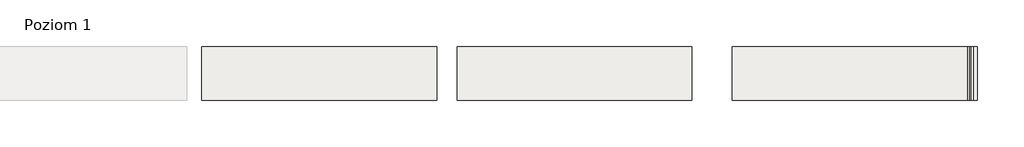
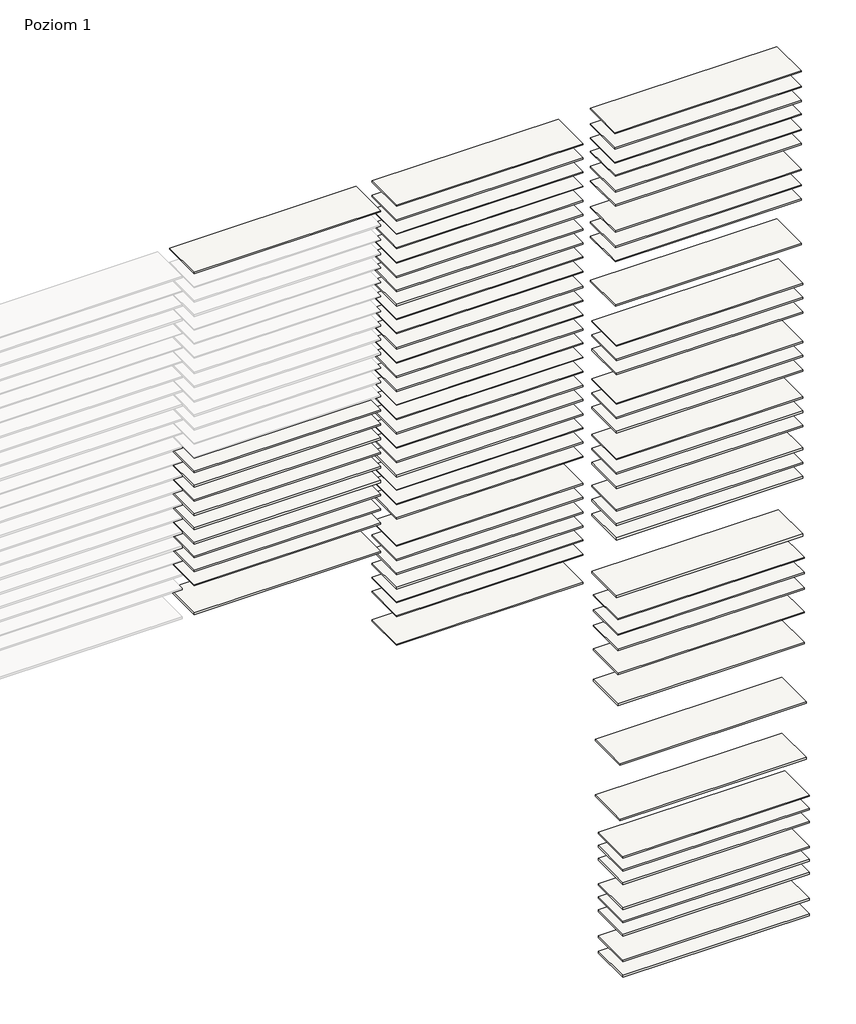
# One storey, part 2 of 2: 79 slabs.
"""IFC4 building model written with IfcOpenShell, lengths in millimetres."""

from ifc_helpers import new_model, si_unit, frame, origin, place, context, project, spatial, polyline, outline, extrude, element, save

model = new_model("IFC4")

# Units and contexts
model_context = context("Model", 3, world=origin())
ifc_project = project(units=[si_unit("LENGTHUNIT", "METRE", prefix="MILLI")], contexts=[model_context])

# Site, building, storey
site = spatial("IfcSite", under=ifc_project)
building = spatial("IfcBuilding", under=site)
storey = spatial("IfcBuildingStorey", under=building, Name="Poziom 1", Elevation=0.0)

# Slabs
placement = place(None, origin())
element("IfcSlab", 1, ObjectType="MultiFloor FIBROCEM-40/T-15", at=placement, inside=storey, context=model_context, shape_type="SweptSolid", body=[
    extrude(outline(polyline([(163678.0557257, 3636.696621), (163678.0557257, -63.303379), (147478.0557257, -63.303379), (147478.0557257, 3636.696621), (163678.0557257, 3636.696621)])), frame((0.0, 0.0, -51.5919376), z_axis=(0.0, 0.0, 1.0), x_axis=(1.0, 0.0, 0.0)), (0.0, 0.0, 1.0), 85.0),
])
element("IfcSlab", 2, ObjectType="MultiFloor FIBROCEM-60/T-15", at=placement, inside=storey, context=model_context, shape_type="SweptSolid", body=[
    extrude(outline(polyline([(163678.0557257, 3636.696621), (163678.0557257, -63.303379), (147478.0557257, -63.303379), (147478.0557257, 3636.696621), (163678.0557257, 3636.696621)])), frame((0.0, 0.0, -1471.5919376), z_axis=(0.0, 0.0, 1.0), x_axis=(1.0, 0.0, 0.0)), (0.0, 0.0, 1.0), 105.0),
])
element("IfcSlab", 3, ObjectType="MultiFloor FIBROCEM-75/T-15", at=placement, inside=storey, context=model_context, shape_type="SweptSolid", body=[
    extrude(outline(polyline([(163678.0557257, 3636.696621), (163678.0557257, -63.303379), (147478.0557257, -63.303379), (147478.0557257, 3636.696621), (163678.0557257, 3636.696621)])), frame((0.0, 0.0, -2786.5919376), z_axis=(0.0, 0.0, 1.0), x_axis=(1.0, 0.0, 0.0)), (0.0, 0.0, 1.0), 120.0),
])
element("IfcSlab", 4, ObjectType="MultiFloor FIBROCEM-40/T-25", at=placement, inside=storey, context=model_context, shape_type="SweptSolid", body=[
    extrude(outline(polyline([(163700.8511669, 3636.696621), (163700.8511669, -63.303379), (147500.8511669, -63.303379), (147500.8511669, 3636.696621), (163700.8511669, 3636.696621)])), frame((0.0, 0.0, -3995.0), z_axis=(0.0, 0.0, 1.0), x_axis=(1.0, 0.0, 0.0)), (0.0, 0.0, 1.0), 95.0),
])
element("IfcSlab", 5, ObjectType="MultiFloor FIBROCEM-60/T-25", at=placement, inside=storey, context=model_context, shape_type="SweptSolid", body=[
    extrude(outline(polyline([(163700.8511669, 3636.696621), (163700.8511669, -63.303379), (147500.8511669, -63.303379), (147500.8511669, 3636.696621), (163700.8511669, 3636.696621)])), frame((0.0, 0.0, -5430.0), z_axis=(0.0, 0.0, 1.0), x_axis=(1.0, 0.0, 0.0)), (0.0, 0.0, 1.0), 115.0),
])
element("IfcSlab", 6, ObjectType="MultiFloor FIBROCEM-75/T-25", at=placement, inside=storey, context=model_context, shape_type="SweptSolid", body=[
    extrude(outline(polyline([(163700.8511669, 3636.696621), (163700.8511669, -63.303379), (147500.8511669, -63.303379), (147500.8511669, 3636.696621), (163700.8511669, 3636.696621)])), frame((0.0, 0.0, -6745.0), z_axis=(0.0, 0.0, 1.0), x_axis=(1.0, 0.0, 0.0)), (0.0, 0.0, 1.0), 130.0),
])
element("IfcSlab", 7, ObjectType="MultiFloor FIBROCEM-40/T-30", at=placement, inside=storey, context=model_context, shape_type="SweptSolid", body=[
    extrude(outline(polyline([(163700.8511669, 3636.696621), (163700.8511669, -63.303379), (147500.8511669, -63.303379), (147500.8511669, 3636.696621), (163700.8511669, 3636.696621)])), frame((0.0, 0.0, -9100.0), z_axis=(0.0, 0.0, 1.0), x_axis=(1.0, 0.0, 0.0)), (0.0, 0.0, 1.0), 100.0),
])
element("IfcSlab", 8, ObjectType="MultiFloor FIBROCEM-60/T-30", at=placement, inside=storey, context=model_context, shape_type="SweptSolid", body=[
    extrude(outline(polyline([(163700.8511669, 3636.696621), (163700.8511669, -63.303379), (147500.8511669, -63.303379), (147500.8511669, 3636.696621), (163700.8511669, 3636.696621)])), frame((0.0, 0.0, -10535.0), z_axis=(0.0, 0.0, 1.0), x_axis=(1.0, 0.0, 0.0)), (0.0, 0.0, 1.0), 120.0),
])
element("IfcSlab", 9, ObjectType="MultiFloor FIBROCEM-75/T-30", at=placement, inside=storey, context=model_context, shape_type="SweptSolid", body=[
    extrude(outline(polyline([(163700.8511669, 3636.696621), (163700.8511669, -63.303379), (147500.8511669, -63.303379), (147500.8511669, 3636.696621), (163700.8511669, 3636.696621)])), frame((0.0, 0.0, -11850.0), z_axis=(0.0, 0.0, 1.0), x_axis=(1.0, 0.0, 0.0)), (0.0, 0.0, 1.0), 135.0),
])
element("IfcSlab", 10, ObjectType="MultiFloor FIBROCEM-60/T-50", at=placement, inside=storey, context=model_context, shape_type="SweptSolid", body=[
    extrude(outline(polyline([(163700.8511669, 3636.696621), (163700.8511669, -63.303379), (147500.8511669, -63.303379), (147500.8511669, 3636.696621), (163700.8511669, 3636.696621)])), frame((0.0, 0.0, -15920.0), z_axis=(0.0, 0.0, 1.0), x_axis=(1.0, 0.0, 0.0)), (0.0, 0.0, 1.0), 140.0),
])
element("IfcSlab", 11, ObjectType="MultiFloor FIBROCEM-40/S-40", at=placement, inside=storey, context=model_context, shape_type="SweptSolid", body=[
    extrude(outline(polyline([(163826.1825274, 3636.696621), (163826.1825274, -63.303379), (147626.1825274, -63.303379), (147626.1825274, 3636.696621), (163826.1825274, 3636.696621)])), frame((0.0, 0.0, -19634.617093), z_axis=(0.0, 0.0, 1.0), x_axis=(1.0, 0.0, 0.0)), (0.0, 0.0, 1.0), 110.0),
])
element("IfcSlab", 12, ObjectType="MultiFloor FIBROCEM-60/S-40", at=placement, inside=storey, context=model_context, shape_type="SweptSolid", body=[
    extrude(outline(polyline([(163826.1825274, 3636.696621), (163826.1825274, -63.303379), (147626.1825274, -63.303379), (147626.1825274, 3636.696621), (163826.1825274, 3636.696621)])), frame((0.0, 0.0, -20954.617093), z_axis=(0.0, 0.0, 1.0), x_axis=(1.0, 0.0, 0.0)), (0.0, 0.0, 1.0), 130.0),
])
element("IfcSlab", 13, ObjectType="MultiFloor FIBROCEM-75/S-40", at=placement, inside=storey, context=model_context, shape_type="SweptSolid", body=[
    extrude(outline(polyline([(163826.1825274, 3636.696621), (163826.1825274, -63.303379), (147626.1825274, -63.303379), (147626.1825274, 3636.696621), (163826.1825274, 3636.696621)])), frame((0.0, 0.0, -22269.617093), z_axis=(0.0, 0.0, 1.0), x_axis=(1.0, 0.0, 0.0)), (0.0, 0.0, 1.0), 145.0),
])
element("IfcSlab", 14, ObjectType="MultiFloor FIBROCEM-40/S-50", at=placement, inside=storey, context=model_context, shape_type="SweptSolid", body=[
    extrude(outline(polyline([(163826.1825274, 3636.696621), (163826.1825274, -63.303379), (147626.1825274, -63.303379), (147626.1825274, 3636.696621), (163826.1825274, 3636.696621)])), frame((0.0, 0.0, -24969.617093), z_axis=(0.0, 0.0, 1.0), x_axis=(1.0, 0.0, 0.0)), (0.0, 0.0, 1.0), 120.0),
])
element("IfcSlab", 15, ObjectType="MultiFloor FIBROCEM-60/S-50", at=placement, inside=storey, context=model_context, shape_type="SweptSolid", body=[
    extrude(outline(polyline([(163826.1825274, 3636.696621), (163826.1825274, -63.303379), (147626.1825274, -63.303379), (147626.1825274, 3636.696621), (163826.1825274, 3636.696621)])), frame((0.0, 0.0, -26289.617093), z_axis=(0.0, 0.0, 1.0), x_axis=(1.0, 0.0, 0.0)), (0.0, 0.0, 1.0), 140.0),
])
element("IfcSlab", 16, ObjectType="MultiFloor FIBROCEM-75/S-50", at=placement, inside=storey, context=model_context, shape_type="SweptSolid", body=[
    extrude(outline(polyline([(163826.1825274, 3636.696621), (163826.1825274, -63.303379), (147626.1825274, -63.303379), (147626.1825274, 3636.696621), (163826.1825274, 3636.696621)])), frame((0.0, 0.0, -27604.617093), z_axis=(0.0, 0.0, 1.0), x_axis=(1.0, 0.0, 0.0)), (0.0, 0.0, 1.0), 155.0),
])
element("IfcSlab", 17, ObjectType="MultiFloor FIBROCEM-40/S-60", at=placement, inside=storey, context=model_context, shape_type="SweptSolid", body=[
    extrude(outline(polyline([(163826.1825274, 3636.696621), (163826.1825274, -63.303379), (147626.1825274, -63.303379), (147626.1825274, 3636.696621), (163826.1825274, 3636.696621)])), frame((0.0, 0.0, -30079.617093), z_axis=(0.0, 0.0, 1.0), x_axis=(1.0, 0.0, 0.0)), (0.0, 0.0, 1.0), 130.0),
])
element("IfcSlab", 18, ObjectType="MultiFloor FIBROCEM-60/S-60", at=placement, inside=storey, context=model_context, shape_type="SweptSolid", body=[
    extrude(outline(polyline([(163826.1825274, 3636.696621), (163826.1825274, -63.303379), (147626.1825274, -63.303379), (147626.1825274, 3636.696621), (163826.1825274, 3636.696621)])), frame((0.0, 0.0, -31399.617093), z_axis=(0.0, 0.0, 1.0), x_axis=(1.0, 0.0, 0.0)), (0.0, 0.0, 1.0), 150.0),
])
element("IfcSlab", 19, ObjectType="MultiFloor FIBROCEM-75/S-60", at=placement, inside=storey, context=model_context, shape_type="SweptSolid", body=[
    extrude(outline(polyline([(163826.1825274, 3636.696621), (163826.1825274, -63.303379), (147626.1825274, -63.303379), (147626.1825274, 3636.696621), (163826.1825274, 3636.696621)])), frame((0.0, 0.0, -32714.617093), z_axis=(0.0, 0.0, 1.0), x_axis=(1.0, 0.0, 0.0)), (0.0, 0.0, 1.0), 165.0),
])
element("IfcSlab", 20, ObjectType="MultiFloor FIBROCEM-40/S-80", at=placement, inside=storey, context=model_context, shape_type="SweptSolid", body=[
    extrude(outline(polyline([(163826.1825274, 3636.696621), (163826.1825274, -63.303379), (147626.1825274, -63.303379), (147626.1825274, 3636.696621), (163826.1825274, 3636.696621)])), frame((0.0, 0.0, -34799.617093), z_axis=(0.0, 0.0, 1.0), x_axis=(1.0, 0.0, 0.0)), (0.0, 0.0, 1.0), 150.0),
])
element("IfcSlab", 21, ObjectType="MultiFloor FIBROCEM-60/S-80", at=placement, inside=storey, context=model_context, shape_type="SweptSolid", body=[
    extrude(outline(polyline([(163826.1825274, 3636.696621), (163826.1825274, -63.303379), (147626.1825274, -63.303379), (147626.1825274, 3636.696621), (163826.1825274, 3636.696621)])), frame((0.0, 0.0, -36119.617093), z_axis=(0.0, 0.0, 1.0), x_axis=(1.0, 0.0, 0.0)), (0.0, 0.0, 1.0), 170.0),
])
element("IfcSlab", 22, ObjectType="MultiFloor FIBROCEM-75/S-80", at=placement, inside=storey, context=model_context, shape_type="SweptSolid", body=[
    extrude(outline(polyline([(163826.1825274, 3636.696621), (163826.1825274, -63.303379), (147626.1825274, -63.303379), (147626.1825274, 3636.696621), (163826.1825274, 3636.696621)])), frame((0.0, 0.0, -37434.617093), z_axis=(0.0, 0.0, 1.0), x_axis=(1.0, 0.0, 0.0)), (0.0, 0.0, 1.0), 185.0),
])
element("IfcSlab", 23, ObjectType="MultiFloor FIBROCEM-75/S-100", at=placement, inside=storey, context=model_context, shape_type="SweptSolid", body=[
    extrude(outline(polyline([(163826.1825274, 3636.696621), (163826.1825274, -63.303379), (147626.1825274, -63.303379), (147626.1825274, 3636.696621), (163826.1825274, 3636.696621)])), frame((0.0, 0.0, -42754.617093), z_axis=(0.0, 0.0, 1.0), x_axis=(1.0, 0.0, 0.0)), (0.0, 0.0, 1.0), 205.0),
])
element("IfcSlab", 24, ObjectType="MultiFloor 60 dB FIBROCEM-40/T-25", at=placement, inside=storey, context=model_context, shape_type="SweptSolid", body=[
    extrude(outline(polyline([(163923.3879139, 3636.696621), (163923.3879139, -63.303379), (147723.3879139, -63.303379), (147723.3879139, 3636.696621), (163923.3879139, 3636.696621)])), frame((0.0, 0.0, -44815.4159134), z_axis=(0.0, 0.0, 1.0), x_axis=(1.0, 0.0, 0.0)), (0.0, 0.0, 1.0), 95.0),
])
element("IfcSlab", 25, ObjectType="MultiFloor 60 dB FIBROCEM-60/T-25", at=placement, inside=storey, context=model_context, shape_type="SweptSolid", body=[
    extrude(outline(polyline([(163923.3879139, 3636.696621), (163923.3879139, -63.303379), (147723.3879139, -63.303379), (147723.3879139, 3636.696621), (163923.3879139, 3636.696621)])), frame((0.0, 0.0, -46235.4159134), z_axis=(0.0, 0.0, 1.0), x_axis=(1.0, 0.0, 0.0)), (0.0, 0.0, 1.0), 115.0),
])
element("IfcSlab", 26, ObjectType="MultiFloor 60 dB FIBROCEM-75/T-25", at=placement, inside=storey, context=model_context, shape_type="SweptSolid", body=[
    extrude(outline(polyline([(163923.3879139, 3636.696621), (163923.3879139, -63.303379), (147723.3879139, -63.303379), (147723.3879139, 3636.696621), (163923.3879139, 3636.696621)])), frame((0.0, 0.0, -47650.4159134), z_axis=(0.0, 0.0, 1.0), x_axis=(1.0, 0.0, 0.0)), (0.0, 0.0, 1.0), 130.0),
])
element("IfcSlab", 27, ObjectType="MultiFloor 60 dB FIBROCEM-40/T-50", at=placement, inside=storey, context=model_context, shape_type="SweptSolid", body=[
    extrude(outline(polyline([(163923.3879139, 3636.696621), (163923.3879139, -63.303379), (147723.3879139, -63.303379), (147723.3879139, 3636.696621), (163923.3879139, 3636.696621)])), frame((0.0, 0.0, -49840.4159134), z_axis=(0.0, 0.0, 1.0), x_axis=(1.0, 0.0, 0.0)), (0.0, 0.0, 1.0), 120.0),
])
element("IfcSlab", 28, ObjectType="MultiFloor 60 dB FIBROCEM-75/T-50", at=placement, inside=storey, context=model_context, shape_type="SweptSolid", body=[
    extrude(outline(polyline([(163923.3879139, 3636.696621), (163923.3879139, -63.303379), (147723.3879139, -63.303379), (147723.3879139, 3636.696621), (163923.3879139, 3636.696621)])), frame((0.0, 0.0, -52675.4159134), z_axis=(0.0, 0.0, 1.0), x_axis=(1.0, 0.0, 0.0)), (0.0, 0.0, 1.0), 155.0),
])
element("IfcSlab", 29, ObjectType="MultiFloor 65 dB FIBROCEM-75/T-30", at=placement, inside=storey, context=model_context, shape_type="SweptSolid", body=[
    extrude(outline(polyline([(164106.5278637, 3636.696621), (164106.5278637, -63.303379), (147906.5278637, -63.303379), (147906.5278637, 3636.696621), (164106.5278637, 3636.696621)])), frame((0.0, 0.0, -58213.8914884), z_axis=(0.0, 0.0, 1.0), x_axis=(1.0, 0.0, 0.0)), (0.0, 0.0, 1.0), 135.0),
])
element("IfcSlab", 30, ObjectType="MultiFloor 65 dB FIBROCEM-75/T-50", at=placement, inside=storey, context=model_context, shape_type="SweptSolid", body=[
    extrude(outline(polyline([(164106.5278637, 3636.696621), (164106.5278637, -63.303379), (147906.5278637, -63.303379), (147906.5278637, 3636.696621), (164106.5278637, 3636.696621)])), frame((0.0, 0.0, -63333.8914884), z_axis=(0.0, 0.0, 1.0), x_axis=(1.0, 0.0, 0.0)), (0.0, 0.0, 1.0), 155.0),
])
element("IfcSlab", 31, ObjectType="MultiFloor 60 dB FIBROCEM-40/S-60", at=placement, inside=storey, context=model_context, shape_type="SweptSolid", body=[
    extrude(outline(polyline([(164388.5511823, 3636.696621), (164388.5511823, -63.303379), (148188.5511823, -63.303379), (148188.5511823, 3636.696621), (164388.5511823, 3636.696621)])), frame((0.0, 0.0, -66862.5322779), z_axis=(0.0, 0.0, 1.0), x_axis=(1.0, 0.0, 0.0)), (0.0, 0.0, 1.0), 130.0),
])
element("IfcSlab", 32, ObjectType="MultiFloor 60 dB FIBROCEM-60/S-60", at=placement, inside=storey, context=model_context, shape_type="SweptSolid", body=[
    extrude(outline(polyline([(164388.5511823, 3636.696621), (164388.5511823, -63.303379), (148188.5511823, -63.303379), (148188.5511823, 3636.696621), (164388.5511823, 3636.696621)])), frame((0.0, 0.0, -68082.5322779), z_axis=(0.0, 0.0, 1.0), x_axis=(1.0, 0.0, 0.0)), (0.0, 0.0, 1.0), 150.0),
])
element("IfcSlab", 33, ObjectType="MultiFloor 60 dB FIBROCEM-75/S-60", at=placement, inside=storey, context=model_context, shape_type="SweptSolid", body=[
    extrude(outline(polyline([(164388.5511823, 3636.696621), (164388.5511823, -63.303379), (148188.5511823, -63.303379), (148188.5511823, 3636.696621), (164388.5511823, 3636.696621)])), frame((0.0, 0.0, -69297.5322779), z_axis=(0.0, 0.0, 1.0), x_axis=(1.0, 0.0, 0.0)), (0.0, 0.0, 1.0), 165.0),
])
element("IfcSlab", 34, ObjectType="MultiFloor 60 dB FIBROCEM-40/S-80", at=placement, inside=storey, context=model_context, shape_type="SweptSolid", body=[
    extrude(outline(polyline([(164388.5511823, 3636.696621), (164388.5511823, -63.303379), (148188.5511823, -63.303379), (148188.5511823, 3636.696621), (164388.5511823, 3636.696621)])), frame((0.0, 0.0, -71582.5322779), z_axis=(0.0, 0.0, 1.0), x_axis=(1.0, 0.0, 0.0)), (0.0, 0.0, 1.0), 150.0),
])
element("IfcSlab", 35, ObjectType="MultiFloor 60 dB FIBROCEM-60/S-80", at=placement, inside=storey, context=model_context, shape_type="SweptSolid", body=[
    extrude(outline(polyline([(164388.5511823, 3636.696621), (164388.5511823, -63.303379), (148188.5511823, -63.303379), (148188.5511823, 3636.696621), (164388.5511823, 3636.696621)])), frame((0.0, 0.0, -72802.5322779), z_axis=(0.0, 0.0, 1.0), x_axis=(1.0, 0.0, 0.0)), (0.0, 0.0, 1.0), 170.0),
])
element("IfcSlab", 36, ObjectType="MultiFloor 60 dB FIBROCEM-75/S-80", at=placement, inside=storey, context=model_context, shape_type="SweptSolid", body=[
    extrude(outline(polyline([(164388.5511823, 3636.696621), (164388.5511823, -63.303379), (148188.5511823, -63.303379), (148188.5511823, 3636.696621), (164388.5511823, 3636.696621)])), frame((0.0, 0.0, -74017.5322779), z_axis=(0.0, 0.0, 1.0), x_axis=(1.0, 0.0, 0.0)), (0.0, 0.0, 1.0), 185.0),
])
element("IfcSlab", 37, ObjectType="MultiFloor 65 dB FIBROCEM-75/S-60", at=placement, inside=storey, context=model_context, shape_type="SweptSolid", body=[
    extrude(outline(polyline([(164388.5511823, 3636.696621), (164388.5511823, -63.303379), (148188.5511823, -63.303379), (148188.5511823, 3636.696621), (164388.5511823, 3636.696621)])), frame((0.0, 0.0, -76397.5322779), z_axis=(0.0, 0.0, 1.0), x_axis=(1.0, 0.0, 0.0)), (0.0, 0.0, 1.0), 165.0),
])
element("IfcSlab", 38, ObjectType="MultiFloor 65 dB FIBROCEM-75/S-80", at=placement, inside=storey, context=model_context, shape_type="SweptSolid", body=[
    extrude(outline(polyline([(164388.5511823, 3636.696621), (164388.5511823, -63.303379), (148188.5511823, -63.303379), (148188.5511823, 3636.696621), (164388.5511823, 3636.696621)])), frame((0.0, 0.0, -77817.5322779), z_axis=(0.0, 0.0, 1.0), x_axis=(1.0, 0.0, 0.0)), (0.0, 0.0, 1.0), 185.0),
])
element("IfcSlab", 39, ObjectType="MultiFloor FLOW-45/S-40", at=placement, inside=storey, context=model_context, shape_type="SweptSolid", body=[
    extrude(outline(polyline([(144700.8511669, 3636.696621), (144700.8511669, -63.303379), (128500.8511669, -63.303379), (128500.8511669, 3636.696621), (144700.8511669, 3636.696621)])), frame((0.0, 0.0, -31315.0), z_axis=(0.0, 0.0, 1.0), x_axis=(1.0, 0.0, 0.0)), (0.0, 0.0, 1.0), 115.0),
])
element("IfcSlab", 40, ObjectType="MultiFloor FLOW-45/S-50", at=placement, inside=storey, context=model_context, shape_type="SweptSolid", body=[
    extrude(outline(polyline([(144700.8511669, 3636.696621), (144700.8511669, -63.303379), (128500.8511669, -63.303379), (128500.8511669, 3636.696621), (144700.8511669, 3636.696621)])), frame((0.0, 0.0, -32625.0), z_axis=(0.0, 0.0, 1.0), x_axis=(1.0, 0.0, 0.0)), (0.0, 0.0, 1.0), 125.0),
])
element("IfcSlab", 41, ObjectType="MultiFloor FLOW-45/S-60", at=placement, inside=storey, context=model_context, shape_type="SweptSolid", body=[
    extrude(outline(polyline([(144700.8511669, 3636.696621), (144700.8511669, -63.303379), (128500.8511669, -63.303379), (128500.8511669, 3636.696621), (144700.8511669, 3636.696621)])), frame((0.0, 0.0, -33935.0), z_axis=(0.0, 0.0, 1.0), x_axis=(1.0, 0.0, 0.0)), (0.0, 0.0, 1.0), 135.0),
])
element("IfcSlab", 42, ObjectType="MultiFloor FLOW-45/S-80", at=placement, inside=storey, context=model_context, shape_type="SweptSolid", body=[
    extrude(outline(polyline([(144700.8511669, 3636.696621), (144700.8511669, -63.303379), (128500.8511669, -63.303379), (128500.8511669, 3636.696621), (144700.8511669, 3636.696621)])), frame((0.0, 0.0, -35255.0), z_axis=(0.0, 0.0, 1.0), x_axis=(1.0, 0.0, 0.0)), (0.0, 0.0, 1.0), 155.0),
])
element("IfcSlab", 43, ObjectType="MultiFloor FLOW-45/T-15", at=placement, inside=storey, context=model_context, shape_type="SweptSolid", body=[
    extrude(outline(polyline([(144700.8511669, 3636.696621), (144700.8511669, -63.303379), (128500.8511669, -63.303379), (128500.8511669, 3636.696621), (144700.8511669, 3636.696621)])), frame((0.0, 0.0, -36490.0), z_axis=(0.0, 0.0, 1.0), x_axis=(1.0, 0.0, 0.0)), (0.0, 0.0, 1.0), 90.0),
])
element("IfcSlab", 44, ObjectType="MultiFloor FLOW-45/T-25", at=placement, inside=storey, context=model_context, shape_type="SweptSolid", body=[
    extrude(outline(polyline([(144700.8511669, 3636.696621), (144700.8511669, -63.303379), (128500.8511669, -63.303379), (128500.8511669, 3636.696621), (144700.8511669, 3636.696621)])), frame((0.0, 0.0, -37800.0), z_axis=(0.0, 0.0, 1.0), x_axis=(1.0, 0.0, 0.0)), (0.0, 0.0, 1.0), 100.0),
])
element("IfcSlab", 45, ObjectType="MultiFloor FLOW-45/T-50", at=placement, inside=storey, context=model_context, shape_type="SweptSolid", body=[
    extrude(outline(polyline([(144700.8511669, 3636.696621), (144700.8511669, -63.303379), (128500.8511669, -63.303379), (128500.8511669, 3636.696621), (144700.8511669, 3636.696621)])), frame((0.0, 0.0, -40425.0), z_axis=(0.0, 0.0, 1.0), x_axis=(1.0, 0.0, 0.0)), (0.0, 0.0, 1.0), 125.0),
])
element("IfcSlab", 46, ObjectType="MultiFloor RAPID- 40/S-40", at=placement, inside=storey, context=model_context, shape_type="SweptSolid", body=[
    extrude(outline(polyline([(127095.3998908, 3636.696621), (127095.3998908, -63.303379), (110895.3998908, -63.303379), (110895.3998908, 3636.696621), (127095.3998908, 3636.696621)])), frame((0.0, 0.0, -110.0), z_axis=(0.0, 0.0, 1.0), x_axis=(1.0, 0.0, 0.0)), (0.0, 0.0, 1.0), 110.0),
])
element("IfcSlab", 47, ObjectType="MultiFloor RAPID-60/T-50", at=placement, inside=storey, context=model_context, shape_type="SweptSolid", body=[
    extrude(outline(polyline([(127095.3998908, 3636.696621), (127095.3998908, -63.303379), (110895.3998908, -63.303379), (110895.3998908, 3636.696621), (127095.3998908, 3636.696621)])), frame((0.0, 0.0, -18405.0), z_axis=(0.0, 0.0, 1.0), x_axis=(1.0, 0.0, 0.0)), (0.0, 0.0, 1.0), 140.0),
])
element("IfcSlab", 48, ObjectType="MultiFloor RAPID-75/S-100", at=placement, inside=storey, context=model_context, shape_type="SweptSolid", body=[
    extrude(outline(polyline([(127095.3998908, 3636.696621), (127095.3998908, -63.303379), (110895.3998908, -63.303379), (110895.3998908, 3636.696621), (127095.3998908, 3636.696621)])), frame((0.0, 0.0, -24970.0), z_axis=(0.0, 0.0, 1.0), x_axis=(1.0, 0.0, 0.0)), (0.0, 0.0, 1.0), 205.0),
])
element("IfcSlab", 49, ObjectType="MultiFloor RAPID-75/S-40", at=placement, inside=storey, context=model_context, shape_type="SweptSolid", body=[
    extrude(outline(polyline([(127095.3998908, 3636.696621), (127095.3998908, -63.303379), (110895.3998908, -63.303379), (110895.3998908, 3636.696621), (127095.3998908, 3636.696621)])), frame((0.0, 0.0, -19710.0), z_axis=(0.0, 0.0, 1.0), x_axis=(1.0, 0.0, 0.0)), (0.0, 0.0, 1.0), 145.0),
])
element("IfcSlab", 50, ObjectType="MultiFloor RAPID-75/S-50", at=placement, inside=storey, context=model_context, shape_type="SweptSolid", body=[
    extrude(outline(polyline([(127095.3998908, 3636.696621), (127095.3998908, -63.303379), (110895.3998908, -63.303379), (110895.3998908, 3636.696621), (127095.3998908, 3636.696621)])), frame((0.0, 0.0, -21020.0), z_axis=(0.0, 0.0, 1.0), x_axis=(1.0, 0.0, 0.0)), (0.0, 0.0, 1.0), 155.0),
])
element("IfcSlab", 51, ObjectType="MultiFloor RAPID-75/S-60", at=placement, inside=storey, context=model_context, shape_type="SweptSolid", body=[
    extrude(outline(polyline([(127095.3998908, 3636.696621), (127095.3998908, -63.303379), (110895.3998908, -63.303379), (110895.3998908, 3636.696621), (127095.3998908, 3636.696621)])), frame((0.0, 0.0, -22330.0), z_axis=(0.0, 0.0, 1.0), x_axis=(1.0, 0.0, 0.0)), (0.0, 0.0, 1.0), 165.0),
])
element("IfcSlab", 52, ObjectType="MultiFloor RAPID-75/S-80", at=placement, inside=storey, context=model_context, shape_type="SweptSolid", body=[
    extrude(outline(polyline([(127095.3998908, 3636.696621), (127095.3998908, -63.303379), (110895.3998908, -63.303379), (110895.3998908, 3636.696621), (127095.3998908, 3636.696621)])), frame((0.0, 0.0, -23650.0), z_axis=(0.0, 0.0, 1.0), x_axis=(1.0, 0.0, 0.0)), (0.0, 0.0, 1.0), 185.0),
])
element("IfcSlab", 53, ObjectType="MultiFloor RAPID-75/T-15", at=placement, inside=storey, context=model_context, shape_type="SweptSolid", body=[
    extrude(outline(polyline([(127095.3998908, 3636.696621), (127095.3998908, -63.303379), (110895.3998908, -63.303379), (110895.3998908, 3636.696621), (127095.3998908, 3636.696621)])), frame((0.0, 0.0, -26185.0), z_axis=(0.0, 0.0, 1.0), x_axis=(1.0, 0.0, 0.0)), (0.0, 0.0, 1.0), 120.0),
])
element("IfcSlab", 54, ObjectType="MultiFloor RAPID-75/T-25", at=placement, inside=storey, context=model_context, shape_type="SweptSolid", body=[
    extrude(outline(polyline([(127095.3998908, 3636.696621), (127095.3998908, -63.303379), (110895.3998908, -63.303379), (110895.3998908, 3636.696621), (127095.3998908, 3636.696621)])), frame((0.0, 0.0, -27495.0), z_axis=(0.0, 0.0, 1.0), x_axis=(1.0, 0.0, 0.0)), (0.0, 0.0, 1.0), 130.0),
])
element("IfcSlab", 55, ObjectType="MultiFloor RAPID-75/T-30", at=placement, inside=storey, context=model_context, shape_type="SweptSolid", body=[
    extrude(outline(polyline([(127095.3998908, 3636.696621), (127095.3998908, -63.303379), (110895.3998908, -63.303379), (110895.3998908, 3636.696621), (127095.3998908, 3636.696621)])), frame((0.0, 0.0, -28800.0), z_axis=(0.0, 0.0, 1.0), x_axis=(1.0, 0.0, 0.0)), (0.0, 0.0, 1.0), 135.0),
])
element("IfcSlab", 56, ObjectType="MultiFloor RAPID-75/T-60", at=placement, inside=storey, context=model_context, shape_type="SweptSolid", body=[
    extrude(outline(polyline([(127095.3998908, 3636.696621), (127095.3998908, -63.303379), (110895.3998908, -63.303379), (110895.3998908, 3636.696621), (127095.3998908, 3636.696621)])), frame((0.0, 0.0, -31430.0), z_axis=(0.0, 0.0, 1.0), x_axis=(1.0, 0.0, 0.0)), (0.0, 0.0, 1.0), 165.0),
])
element("IfcSlab", 57, ObjectType="MultiFloor WF4310-25/S-40", at=placement, inside=storey, context=model_context, shape_type="SweptSolid", body=[
    extrude(outline(polyline([(144700.8511669, 3636.696621), (144700.8511669, -63.303379), (128500.8511669, -63.303379), (128500.8511669, 3636.696621), (144700.8511669, 3636.696621)])), frame((0.0, 0.0, -95.0), z_axis=(0.0, 0.0, 1.0), x_axis=(1.0, 0.0, 0.0)), (0.0, 0.0, 1.0), 95.0),
])
element("IfcSlab", 58, ObjectType="MultiFloor WF4310-25/S-80", at=placement, inside=storey, context=model_context, shape_type="SweptSolid", body=[
    extrude(outline(polyline([(144700.8511669, 3636.696621), (144700.8511669, -63.303379), (128500.8511669, -63.303379), (128500.8511669, 3636.696621), (144700.8511669, 3636.696621)])), frame((0.0, 0.0, -1435.0), z_axis=(0.0, 0.0, 1.0), x_axis=(1.0, 0.0, 0.0)), (0.0, 0.0, 1.0), 135.0),
])
element("IfcSlab", 59, ObjectType="MultiFloor WF4310-25/T-15", at=placement, inside=storey, context=model_context, shape_type="SweptSolid", body=[
    extrude(outline(polyline([(144700.8511669, 3636.696621), (144700.8511669, -63.303379), (128500.8511669, -63.303379), (128500.8511669, 3636.696621), (144700.8511669, 3636.696621)])), frame((0.0, 0.0, -2670.0), z_axis=(0.0, 0.0, 1.0), x_axis=(1.0, 0.0, 0.0)), (0.0, 0.0, 1.0), 70.0),
])
element("IfcSlab", 60, ObjectType="MultiFloor WF4310-25/T-25", at=placement, inside=storey, context=model_context, shape_type="SweptSolid", body=[
    extrude(outline(polyline([(144700.8511669, 3636.696621), (144700.8511669, -63.303379), (128500.8511669, -63.303379), (128500.8511669, 3636.696621), (144700.8511669, 3636.696621)])), frame((0.0, 0.0, -3980.0), z_axis=(0.0, 0.0, 1.0), x_axis=(1.0, 0.0, 0.0)), (0.0, 0.0, 1.0), 80.0),
])
element("IfcSlab", 61, ObjectType="MultiFloor WF4310-45/S-40", at=placement, inside=storey, context=model_context, shape_type="SweptSolid", body=[
    extrude(outline(polyline([(144700.8511669, 3636.696621), (144700.8511669, -63.303379), (128500.8511669, -63.303379), (128500.8511669, 3636.696621), (144700.8511669, 3636.696621)])), frame((0.0, 0.0, -5315.0), z_axis=(0.0, 0.0, 1.0), x_axis=(1.0, 0.0, 0.0)), (0.0, 0.0, 1.0), 115.0),
])
element("IfcSlab", 62, ObjectType="MultiFloor WF4310-45/S-50", at=placement, inside=storey, context=model_context, shape_type="SweptSolid", body=[
    extrude(outline(polyline([(144700.8511669, 3636.696621), (144700.8511669, -63.303379), (128500.8511669, -63.303379), (128500.8511669, 3636.696621), (144700.8511669, 3636.696621)])), frame((0.0, 0.0, -6625.0), z_axis=(0.0, 0.0, 1.0), x_axis=(1.0, 0.0, 0.0)), (0.0, 0.0, 1.0), 125.0),
])
element("IfcSlab", 63, ObjectType="MultiFloor WF4310-45/S-60", at=placement, inside=storey, context=model_context, shape_type="SweptSolid", body=[
    extrude(outline(polyline([(144700.8511669, 3636.696621), (144700.8511669, -63.303379), (128500.8511669, -63.303379), (128500.8511669, 3636.696621), (144700.8511669, 3636.696621)])), frame((0.0, 0.0, -7935.0), z_axis=(0.0, 0.0, 1.0), x_axis=(1.0, 0.0, 0.0)), (0.0, 0.0, 1.0), 135.0),
])
element("IfcSlab", 64, ObjectType="MultiFloor WF4310-45/S-80", at=placement, inside=storey, context=model_context, shape_type="SweptSolid", body=[
    extrude(outline(polyline([(144700.8511669, 3636.696621), (144700.8511669, -63.303379), (128500.8511669, -63.303379), (128500.8511669, 3636.696621), (144700.8511669, 3636.696621)])), frame((0.0, 0.0, -9255.0), z_axis=(0.0, 0.0, 1.0), x_axis=(1.0, 0.0, 0.0)), (0.0, 0.0, 1.0), 155.0),
])
element("IfcSlab", 65, ObjectType="MultiFloor WF4310-45/T-15", at=placement, inside=storey, context=model_context, shape_type="SweptSolid", body=[
    extrude(outline(polyline([(144700.8511669, 3636.696621), (144700.8511669, -63.303379), (128500.8511669, -63.303379), (128500.8511669, 3636.696621), (144700.8511669, 3636.696621)])), frame((0.0, 0.0, -10490.0), z_axis=(0.0, 0.0, 1.0), x_axis=(1.0, 0.0, 0.0)), (0.0, 0.0, 1.0), 90.0),
])
element("IfcSlab", 66, ObjectType="MultiFloor WF4310-45/T-25", at=placement, inside=storey, context=model_context, shape_type="SweptSolid", body=[
    extrude(outline(polyline([(144700.8511669, 3636.696621), (144700.8511669, -63.303379), (128500.8511669, -63.303379), (128500.8511669, 3636.696621), (144700.8511669, 3636.696621)])), frame((0.0, 0.0, -11800.0), z_axis=(0.0, 0.0, 1.0), x_axis=(1.0, 0.0, 0.0)), (0.0, 0.0, 1.0), 100.0),
])
element("IfcSlab", 67, ObjectType="MultiFloor WF4310-45/T-50", at=placement, inside=storey, context=model_context, shape_type="SweptSolid", body=[
    extrude(outline(polyline([(144700.8511669, 3636.696621), (144700.8511669, -63.303379), (128500.8511669, -63.303379), (128500.8511669, 3636.696621), (144700.8511669, 3636.696621)])), frame((0.0, 0.0, -13225.0), z_axis=(0.0, 0.0, 1.0), x_axis=(1.0, 0.0, 0.0)), (0.0, 0.0, 1.0), 125.0),
])
element("IfcSlab", 68, ObjectType="MultiFloor WF4320-25/S-40", at=placement, inside=storey, context=model_context, shape_type="SweptSolid", body=[
    extrude(outline(polyline([(144700.8511669, 3636.696621), (144700.8511669, -63.303379), (128500.8511669, -63.303379), (128500.8511669, 3636.696621), (144700.8511669, 3636.696621)])), frame((0.0, 0.0, -14495.0), z_axis=(0.0, 0.0, 1.0), x_axis=(1.0, 0.0, 0.0)), (0.0, 0.0, 1.0), 95.0),
])
element("IfcSlab", 69, ObjectType="MultiFloor WF4320-25/S-60", at=placement, inside=storey, context=model_context, shape_type="SweptSolid", body=[
    extrude(outline(polyline([(144700.8511669, 3636.696621), (144700.8511669, -63.303379), (128500.8511669, -63.303379), (128500.8511669, 3636.696621), (144700.8511669, 3636.696621)])), frame((0.0, 0.0, -15815.0), z_axis=(0.0, 0.0, 1.0), x_axis=(1.0, 0.0, 0.0)), (0.0, 0.0, 1.0), 115.0),
])
element("IfcSlab", 70, ObjectType="MultiFloor WF4320-25/S-80", at=placement, inside=storey, context=model_context, shape_type="SweptSolid", body=[
    extrude(outline(polyline([(144700.8511669, 3636.696621), (144700.8511669, -63.303379), (128500.8511669, -63.303379), (128500.8511669, 3636.696621), (144700.8511669, 3636.696621)])), frame((0.0, 0.0, -17135.0), z_axis=(0.0, 0.0, 1.0), x_axis=(1.0, 0.0, 0.0)), (0.0, 0.0, 1.0), 135.0),
])
element("IfcSlab", 71, ObjectType="MultiFloor WF4320-25/T-15", at=placement, inside=storey, context=model_context, shape_type="SweptSolid", body=[
    extrude(outline(polyline([(144700.8511669, 3636.696621), (144700.8511669, -63.303379), (128500.8511669, -63.303379), (128500.8511669, 3636.696621), (144700.8511669, 3636.696621)])), frame((0.0, 0.0, -18370.0), z_axis=(0.0, 0.0, 1.0), x_axis=(1.0, 0.0, 0.0)), (0.0, 0.0, 1.0), 70.0),
])
element("IfcSlab", 72, ObjectType="MultiFloor WF4320-25/T-25", at=placement, inside=storey, context=model_context, shape_type="SweptSolid", body=[
    extrude(outline(polyline([(144700.8511669, 3636.696621), (144700.8511669, -63.303379), (128500.8511669, -63.303379), (128500.8511669, 3636.696621), (144700.8511669, 3636.696621)])), frame((0.0, 0.0, -19680.0), z_axis=(0.0, 0.0, 1.0), x_axis=(1.0, 0.0, 0.0)), (0.0, 0.0, 1.0), 80.0),
])
element("IfcSlab", 73, ObjectType="MultiFloor WF4320-45/S-40", at=placement, inside=storey, context=model_context, shape_type="SweptSolid", body=[
    extrude(outline(polyline([(144700.8511669, 3636.696621), (144700.8511669, -63.303379), (128500.8511669, -63.303379), (128500.8511669, 3636.696621), (144700.8511669, 3636.696621)])), frame((0.0, 0.0, -21015.0), z_axis=(0.0, 0.0, 1.0), x_axis=(1.0, 0.0, 0.0)), (0.0, 0.0, 1.0), 115.0),
])
element("IfcSlab", 74, ObjectType="MultiFloor WF4320-45/S-50", at=placement, inside=storey, context=model_context, shape_type="SweptSolid", body=[
    extrude(outline(polyline([(144700.8511669, 3636.696621), (144700.8511669, -63.303379), (128500.8511669, -63.303379), (128500.8511669, 3636.696621), (144700.8511669, 3636.696621)])), frame((0.0, 0.0, -22325.0), z_axis=(0.0, 0.0, 1.0), x_axis=(1.0, 0.0, 0.0)), (0.0, 0.0, 1.0), 125.0),
])
element("IfcSlab", 75, ObjectType="MultiFloor WF4320-45/S-60", at=placement, inside=storey, context=model_context, shape_type="SweptSolid", body=[
    extrude(outline(polyline([(144700.8511669, 3636.696621), (144700.8511669, -63.303379), (128500.8511669, -63.303379), (128500.8511669, 3636.696621), (144700.8511669, 3636.696621)])), frame((0.0, 0.0, -23635.0), z_axis=(0.0, 0.0, 1.0), x_axis=(1.0, 0.0, 0.0)), (0.0, 0.0, 1.0), 135.0),
])
element("IfcSlab", 76, ObjectType="MultiFloor WF4320-45/S-80", at=placement, inside=storey, context=model_context, shape_type="SweptSolid", body=[
    extrude(outline(polyline([(144700.8511669, 3636.696621), (144700.8511669, -63.303379), (128500.8511669, -63.303379), (128500.8511669, 3636.696621), (144700.8511669, 3636.696621)])), frame((0.0, 0.0, -24955.0), z_axis=(0.0, 0.0, 1.0), x_axis=(1.0, 0.0, 0.0)), (0.0, 0.0, 1.0), 155.0),
])
element("IfcSlab", 77, ObjectType="MultiFloor WF4320-45/T-15", at=placement, inside=storey, context=model_context, shape_type="SweptSolid", body=[
    extrude(outline(polyline([(144700.8511669, 3636.696621), (144700.8511669, -63.303379), (128500.8511669, -63.303379), (128500.8511669, 3636.696621), (144700.8511669, 3636.696621)])), frame((0.0, 0.0, -26190.0), z_axis=(0.0, 0.0, 1.0), x_axis=(1.0, 0.0, 0.0)), (0.0, 0.0, 1.0), 90.0),
])
element("IfcSlab", 78, ObjectType="MultiFloor WF4320-45/T-25", at=placement, inside=storey, context=model_context, shape_type="SweptSolid", body=[
    extrude(outline(polyline([(144700.8511669, 3636.696621), (144700.8511669, -63.303379), (128500.8511669, -63.303379), (128500.8511669, 3636.696621), (144700.8511669, 3636.696621)])), frame((0.0, 0.0, -27500.0), z_axis=(0.0, 0.0, 1.0), x_axis=(1.0, 0.0, 0.0)), (0.0, 0.0, 1.0), 100.0),
])
element("IfcSlab", 79, ObjectType="MultiFloor WF4320-45/T-50", at=placement, inside=storey, context=model_context, shape_type="SweptSolid", body=[
    extrude(outline(polyline([(144700.8511669, 3636.696621), (144700.8511669, -63.303379), (128500.8511669, -63.303379), (128500.8511669, 3636.696621), (144700.8511669, 3636.696621)])), frame((0.0, 0.0, -28825.0), z_axis=(0.0, 0.0, 1.0), x_axis=(1.0, 0.0, 0.0)), (0.0, 0.0, 1.0), 125.0),
])

save(model, "model.ifc")
